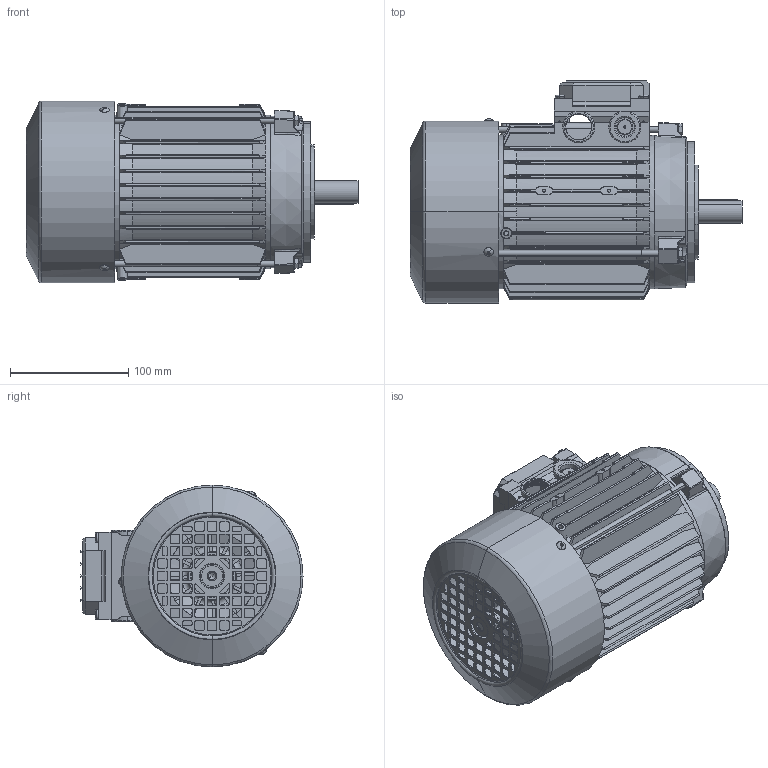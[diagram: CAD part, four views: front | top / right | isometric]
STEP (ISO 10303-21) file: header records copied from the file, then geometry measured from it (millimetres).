
FILE_DESCRIPTION (( 'STEP AP214' ), '1' );
FILE_NAME ('SM 80 B14.STEP', '2017-07-15T08:34:05', ( '' ), ( '' ), 'SwSTEP 2.0', 'SolidWorks 2017', '' );
FILE_SCHEMA (( 'AUTOMOTIVE_DESIGN' ));
Length unit declared in the file: millimetre
Products named in the file (13): Scudo a flangia B14 BA-BM 80 - DCAC0194; Carcassa 80 B5; SM 80 B14; Coperchio per Scatola Singola 63-71-80 con viti; Vite per coperchio morsettiera; Coperchio per Scatola Singola 63-71-80 - DBAN0095; Dado M5; Vite testa rotonda M3; Cuffia SM 80; Chiavetta 80; Albero SM 80; Tirante SM 80; Scudo Lato Comando B3 BA-BM 80 - DCAD0094
Assembly tree (21 placements, depth 3):
  SM 80 B14
    Carcassa 80 B5
    Scudo a flangia B14 BA-BM 80 - DCAC0194
    Scudo Lato Comando B3 BA-BM 80 - DCAD0094
    Tirante SM 80  x3
    Albero SM 80
    Chiavetta 80
    Cuffia SM 80
    Vite testa rotonda M3  x3
    Dado M5  x3
    Coperchio per Scatola Singola 63-71-80 con viti
      Coperchio per Scatola Singola 63-71-80 - DBAN0095
      Vite per coperchio morsettiera  x4
Bounding box: 281 x 188 x 154 mm (x, y, z)
Volume: 718143.8 mm3; surface area: 498881.3 mm2
Topology: 23 solids, 23 shells, 2721 faces, 7430 edges, 4793 vertices
Faces by surface type: plane 1041, cylinder 881, torus 345, cone 289, bspline 159, sphere 6
Entity records: 91438 total; most frequent: CARTESIAN_POINT 32658, ORIENTED_EDGE 12994, DIRECTION 11271, EDGE_CURVE 6497, AXIS2_PLACEMENT_3D 4245, VERTEX_POINT 4223, LINE 2781, VECTOR 2781
